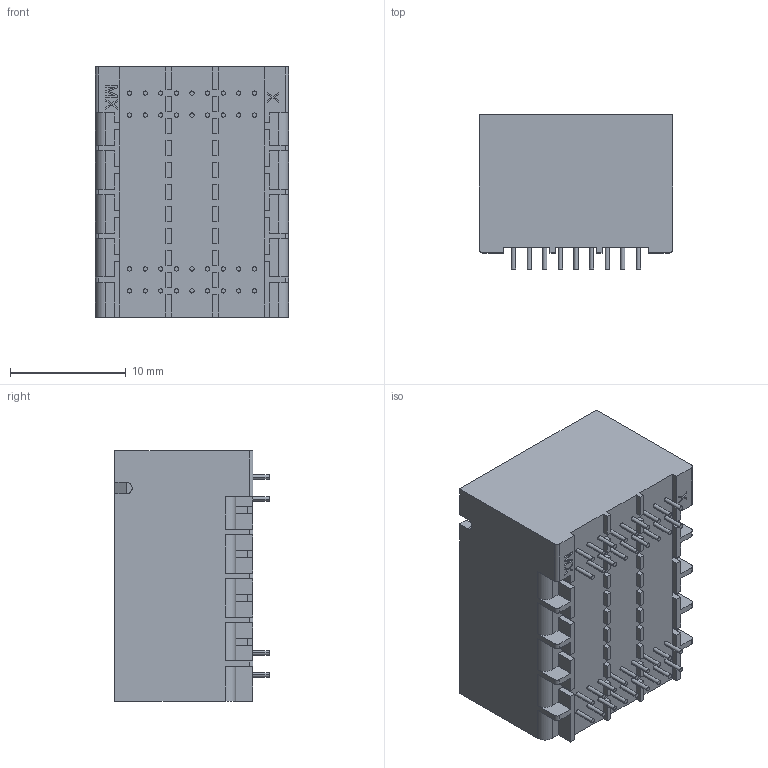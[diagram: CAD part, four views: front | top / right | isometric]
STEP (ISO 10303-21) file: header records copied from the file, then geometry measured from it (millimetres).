
FILE_DESCRIPTION((''),'2;1');
FILE_NAME('761651125','2020-10-16T',('me'),(''),'PRO/ENGINEER BY PARAMETRIC TECHNOLOGY CORPORATION, 2016010','PRO/ENGINEER BY PARAMETRIC TECHNOLOGY CORPORATION, 2016010','');
FILE_SCHEMA(('CONFIG_CONTROL_DESIGN'));
Length unit declared in the file: millimetre
Products named in the file (1): 761651125
Bounding box: 16.7 x 13.35 x 21.65 mm (x, y, z)
Volume: 1466.5 mm3; surface area: 2732.7 mm2
Topology: 1 solids, 1 shells, 596 faces, 1663 edges, 1162 vertices
Faces by surface type: plane 494, cylinder 102
Entity records: 18910 total; most frequent: CARTESIAN_POINT 3248, DIRECTION 3239, ORIENTED_EDGE 2966, EDGE_CURVE 1483, VECTOR 1277, LINE 1277, VERTEX_POINT 982, AXIS2_PLACEMENT_3D 981
